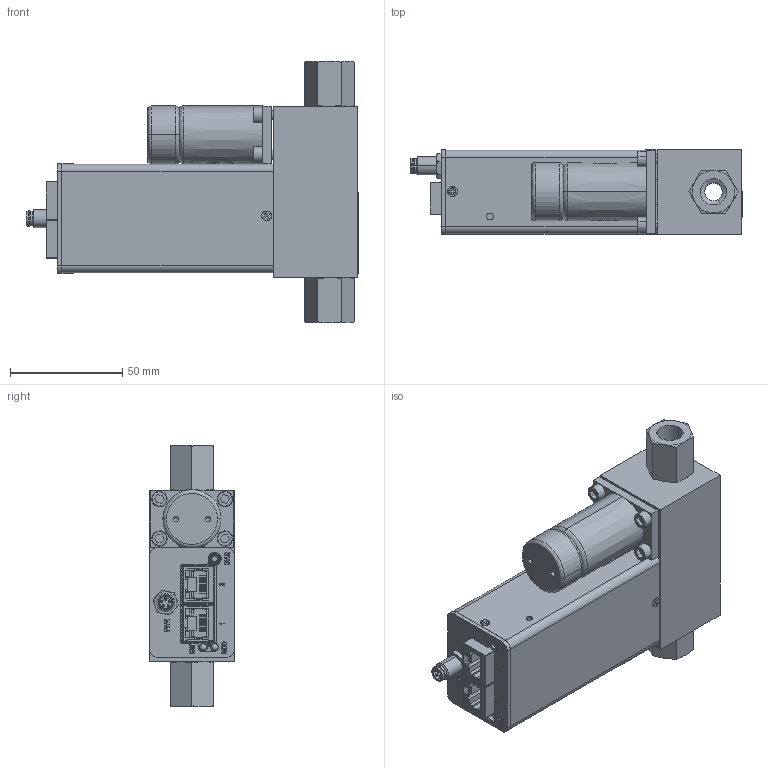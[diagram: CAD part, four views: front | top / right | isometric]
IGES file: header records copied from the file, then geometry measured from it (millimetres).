
Start section: SolidWorks IGES file using analytic representation for surfaces
Global section: file name: G:\Engineering\CAD MODELS FOR SALES\CAD MODEL STORAGE\SLA\SLA5850\IGES\SLA5850-8-1G-1-A-REVB.IGS; native system: SolidWorks 2019; preprocessor: SolidWorks 2019; author: CFehr; date: 200729.112701; units: inch
Bounding box: 147.97 x 38.07 x 116.55 mm (x, y, z)
Volume: 67505.6 mm3; surface area: 97821.6 mm2
Topology: 50 solids, 50 shells, 2216 faces, 6027 edges, 3805 vertices
Faces by surface type: plane 1401, revolution 644, bspline 171
